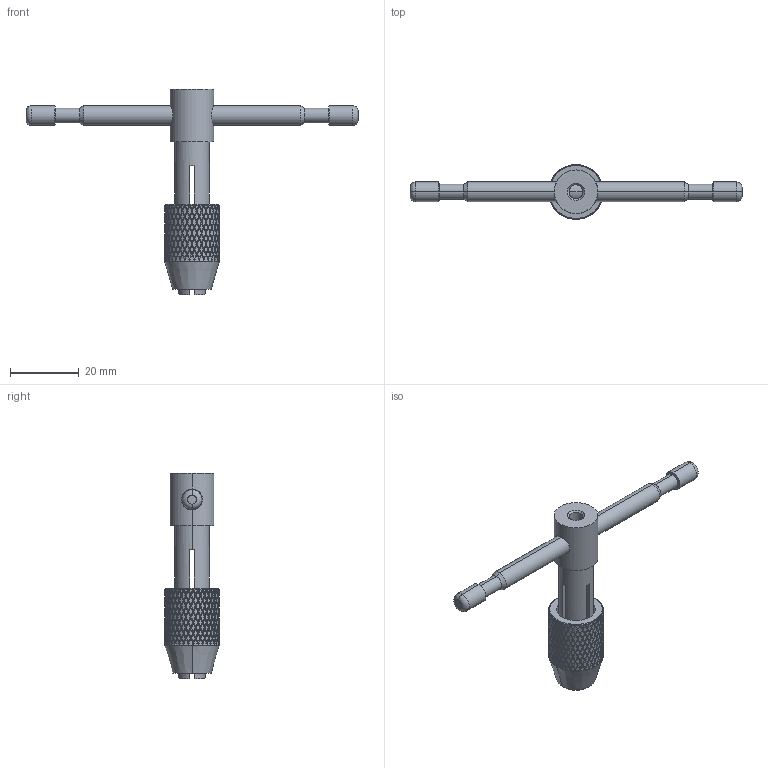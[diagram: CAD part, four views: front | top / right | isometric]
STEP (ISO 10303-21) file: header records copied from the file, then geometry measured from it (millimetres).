
FILE_DESCRIPTION (( 'STEP AP203' ), '1' );
FILE_NAME ('4204-0002-0001.STEP', '2019-03-15T20:15:22', ( '' ), ( '' ), 'SwSTEP 2.0', 'SolidWorks 2016', '' );
FILE_SCHEMA (( 'CONFIG_CONTROL_DESIGN' ));
Length unit declared in the file: millimetre
Products named in the file (1): 4204-0002-0001
Bounding box: 96.52 x 15.88 x 59.69 mm (x, y, z)
Volume: 8333 mm3; surface area: 6474.5 mm2
Topology: 2 solids, 2 shells, 2193 faces, 5667 edges, 3767 vertices
Faces by surface type: plane 1774, cylinder 397, cone 18, torus 4
Entity records: 66161 total; most frequent: CARTESIAN_POINT 22385, ORIENTED_EDGE 11334, DIRECTION 6885, EDGE_CURVE 5667, VERTEX_POINT 3767, AXIS2_PLACEMENT_3D 2535, EDGE_LOOP 2496, ADVANCED_FACE 2193
